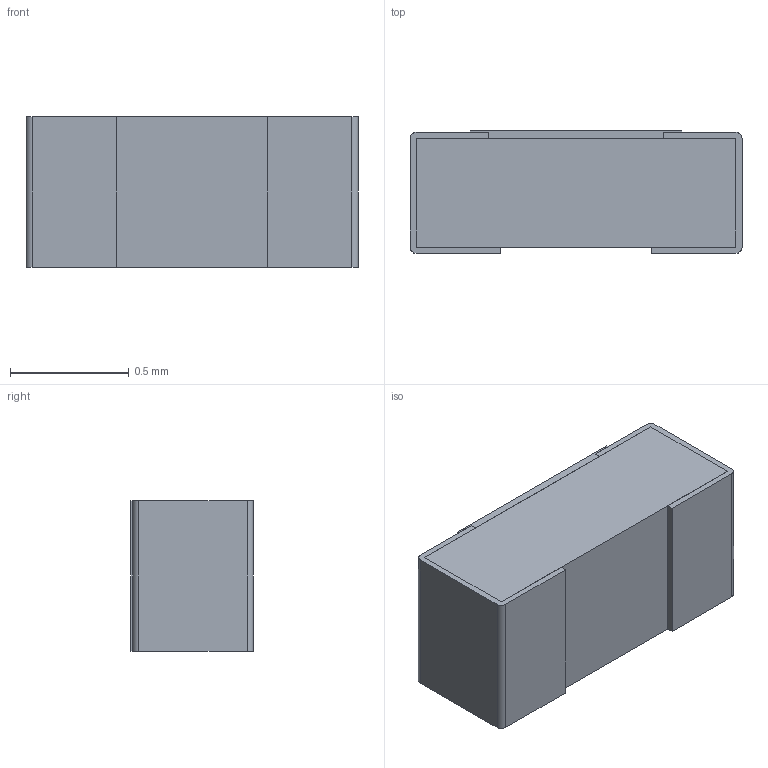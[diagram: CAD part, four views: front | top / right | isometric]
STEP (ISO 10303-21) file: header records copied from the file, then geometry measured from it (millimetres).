
FILE_DESCRIPTION(/* description */ (''),/* implementation_level */ '2;1');
FILE_NAME(/* name */ 'C:\Users\Public\Documents\Autodesk\Inventor LT 2014\Workspace\Vishay\STEP Files\M55342-01.stp',/* time_stamp */ '2019-09-11T15:09:11-05:00',/* author */ ('Neil'),/* organization */ (''),/* preprocessor_version */ 'ST-DEVELOPER v15.2',/* originating_system */ 'Autodesk Inventor LT ',/* authorisation */ '');
FILE_SCHEMA (('AUTOMOTIVE_DESIGN { 1 0 10303 214 3 1 1 }'));
Length unit declared in the file: inch
Products named in the file (1): M55342-01
Bounding box: 1.4 x 0.52 x 0.64 mm (x, y, z)
Volume: 0.4 mm3; surface area: 8.6 mm2
Topology: 5 solids, 5 shells, 50 faces, 120 edges, 80 vertices
Faces by surface type: plane 46, cylinder 4
Entity records: 1482 total; most frequent: CARTESIAN_POINT 251, ORIENTED_EDGE 240, DIRECTION 230, EDGE_CURVE 120, LINE 112, VECTOR 112, VERTEX_POINT 80, AXIS2_PLACEMENT_3D 59
